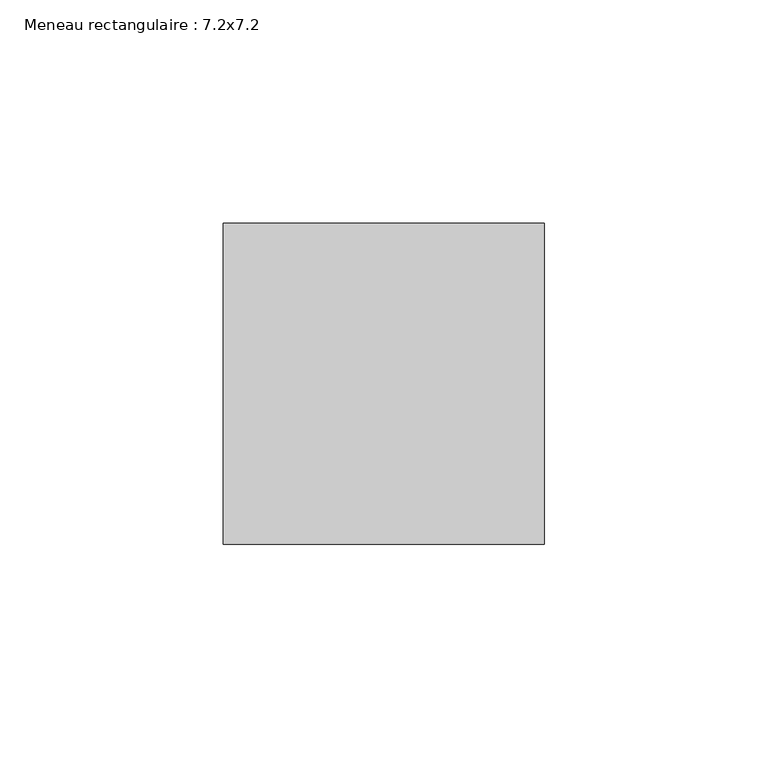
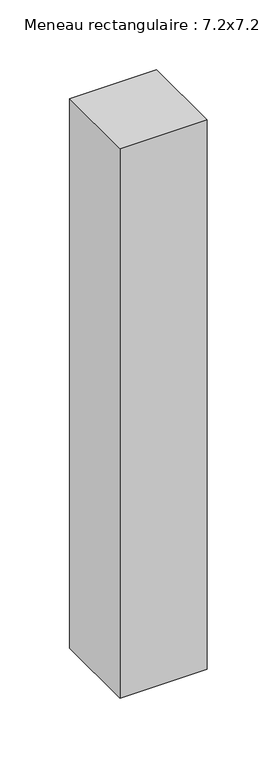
"""IFC4 building model written with IfcOpenShell, lengths in millimetres: member geometry, Meneau rectangulaire : 7.2x7.2."""

from ifc_helpers import new_model, si_unit, frame, origin, place, context, project, spatial, polyline, outline, extrude, source, transform, mapped, element, save


def meneau_rectangulaire_7_2x7_2_6fa56140(model_context):
    return source(origin(), model_context, "Body", "SweptSolid", [
        extrude(outline(polyline([(0.0, 36.0), (0.0, -36.0), (-72.0, -36.0), (-72.0, 36.0), (0.0, 36.0)])), frame((0.0, 0.0, -480.0), z_axis=(0.0, 0.0, 1.0), x_axis=(1.0, 0.0, 0.0)), (0.0, 0.0, 1.0), 480.0),
    ])


if __name__ == "__main__":
    model = new_model("IFC4")
    model_context = context("Model", 3, world=origin())
    ifc_project = project(units=[si_unit("LENGTHUNIT", "METRE", prefix="MILLI")], contexts=[model_context])
    site = spatial("IfcSite", under=ifc_project)
    building = spatial("IfcBuilding", under=site)
    placement = place(None, origin())
    meneau_rectangulaire_7_2x7_2_shape = meneau_rectangulaire_7_2x7_2_6fa56140(model_context)
    element("IfcMember", 1, ObjectType="Meneau rectangulaire : 7.2x7.2", at=placement, inside=building, context=model_context, shape_type="MappedRepresentation", body=[
        mapped(meneau_rectangulaire_7_2x7_2_shape, transform((0.0, 0.0, 0.0), x_axis=(1.0, 0.0, 0.0), y_axis=(0.0, 1.0, 0.0), z_axis=(0.0, 0.0, 1.0))),
    ])
    save(model, "model.ifc")
